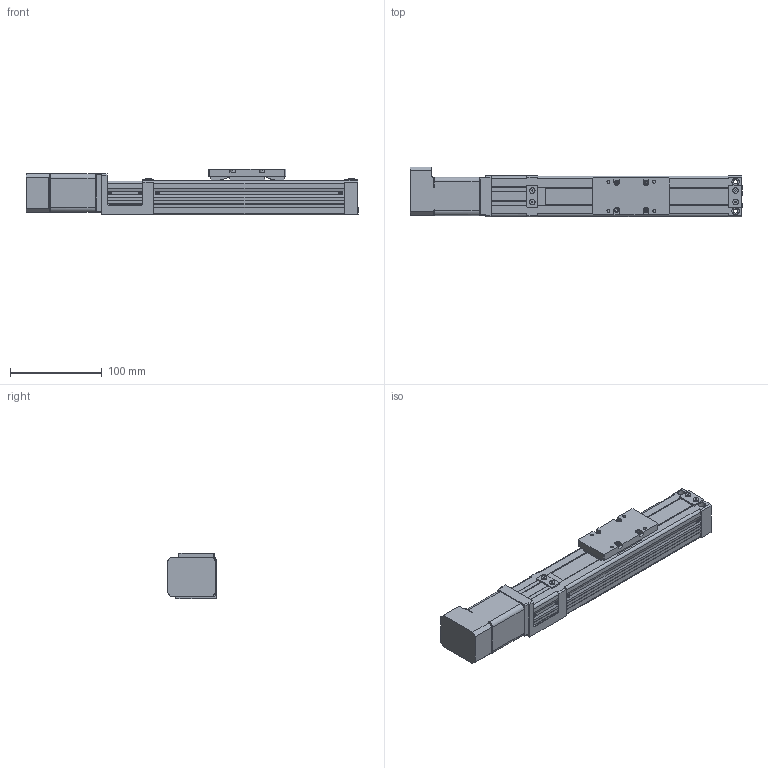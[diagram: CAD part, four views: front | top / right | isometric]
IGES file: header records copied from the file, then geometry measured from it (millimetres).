
Global section: file name: No Iges File Name specified; native system: AutoDesk Inventor R10; preprocessor: AutoDesk Inventor Iges Exporter R10; author: No Author specified; organization: No Organization specified; date: 20110330.140709; units: millimetre
Bounding box: 362.5 x 54.5 x 50 mm (x, y, z)
Surface area: 141682.1 mm2 (no closed solid volume)
Topology: 0 solids, 0 shells, 873 faces, 5702 edges, 5674 vertices
Faces by surface type: bspline 873
